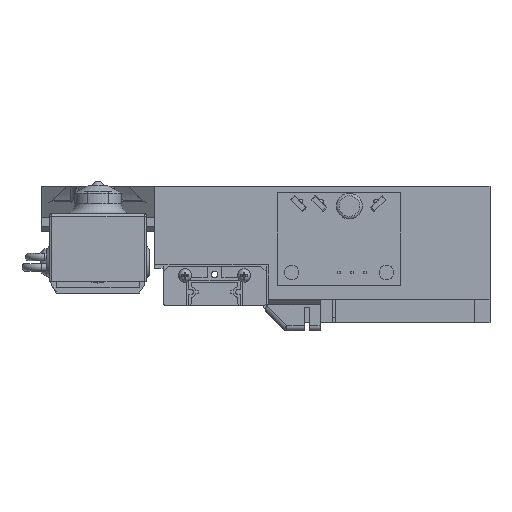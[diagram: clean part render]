
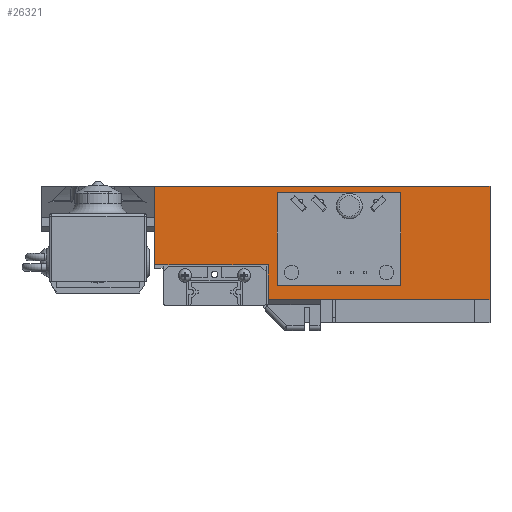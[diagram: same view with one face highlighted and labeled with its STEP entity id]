
A CAD part, left-side view. The second image highlights one B-rep face of the part: STEP entity #26321.
In plain terms, the highlighted planar face has unit normal (-1, 0, 0).
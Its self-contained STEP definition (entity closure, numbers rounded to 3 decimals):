
#1154=B_SPLINE_CURVE_WITH_KNOTS('',3,(#113916,#113917,#113918,#113919,#113920,
#113921,#113922),.UNSPECIFIED.,.F.,.F.,(4,3,4),(0.667,0.674,
0.679),.UNSPECIFIED.);
#1442=FACE_BOUND('',#5042,.T.);
#1443=FACE_BOUND('',#5043,.T.);
#1444=FACE_BOUND('',#5044,.T.);
#2091=PLANE('',#28885);
#3488=FACE_OUTER_BOUND('',#5041,.T.);
#5041=EDGE_LOOP('',(#24023,#24024,#24025,#24026,#24027,#24028,#24029,#24030,
#24031));
#5042=EDGE_LOOP('',(#24032,#24033,#24034,#24035));
#5043=EDGE_LOOP('',(#24036));
#5044=EDGE_LOOP('',(#24037));
#6685=LINE('',#110885,#8800);
#6820=LINE('',#113217,#8935);
#6891=LINE('',#113439,#9006);
#6897=LINE('',#113452,#9012);
#6904=LINE('',#113468,#9019);
#6908=LINE('',#113479,#9023);
#6977=LINE('',#113647,#9092);
#7057=LINE('',#113860,#9172);
#7064=LINE('',#113895,#9179);
#7066=LINE('',#113899,#9181);
#7069=LINE('',#113926,#9184);
#7071=LINE('',#113929,#9186);
#8800=VECTOR('',#34368,10.);
#8935=VECTOR('',#34671,10.);
#9006=VECTOR('',#34876,10.);
#9012=VECTOR('',#34884,10.);
#9019=VECTOR('',#34893,10.);
#9023=VECTOR('',#34899,10.);
#9092=VECTOR('',#35046,10.);
#9172=VECTOR('',#35254,10.);
#9179=VECTOR('',#35271,10.);
#9181=VECTOR('',#35275,10.);
#9184=VECTOR('',#35280,10.);
#9186=VECTOR('',#35284,10.);
#10201=CIRCLE('',#28786,2.15);
#10203=CIRCLE('',#28789,2.15);
#12314=VERTEX_POINT('',#110882);
#12315=VERTEX_POINT('',#110884);
#12491=VERTEX_POINT('',#113214);
#12492=VERTEX_POINT('',#113216);
#12555=VERTEX_POINT('',#113436);
#12556=VERTEX_POINT('',#113438);
#12561=VERTEX_POINT('',#113449);
#12562=VERTEX_POINT('',#113451);
#12579=VERTEX_POINT('',#113511);
#12581=VERTEX_POINT('',#113517);
#12681=VERTEX_POINT('',#113858);
#12685=VERTEX_POINT('',#113894);
#12686=VERTEX_POINT('',#113898);
#12687=VERTEX_POINT('',#113915);
#12688=VERTEX_POINT('',#113925);
#15913=EDGE_CURVE('',#12315,#12314,#6685,.T.);
#16176=EDGE_CURVE('',#12492,#12491,#6820,.T.);
#16277=EDGE_CURVE('',#12556,#12555,#6891,.T.);
#16283=EDGE_CURVE('',#12562,#12561,#6897,.T.);
#16291=EDGE_CURVE('',#12555,#12562,#6904,.T.);
#16296=EDGE_CURVE('',#12561,#12556,#6908,.T.);
#16313=EDGE_CURVE('',#12579,#12579,#10201,.T.);
#16316=EDGE_CURVE('',#12581,#12581,#10203,.T.);
#16382=EDGE_CURVE('',#12315,#12491,#6977,.T.);
#16478=EDGE_CURVE('',#12681,#12314,#7057,.T.);
#16486=EDGE_CURVE('',#12681,#12685,#7064,.T.);
#16488=EDGE_CURVE('',#12685,#12686,#7066,.T.);
#16490=EDGE_CURVE('',#12687,#12686,#1154,.T.);
#16492=EDGE_CURVE('',#12687,#12688,#7069,.T.);
#16494=EDGE_CURVE('',#12688,#12492,#7071,.T.);
#24023=ORIENTED_EDGE('',*,*,#15913,.T.);
#24024=ORIENTED_EDGE('',*,*,#16478,.F.);
#24025=ORIENTED_EDGE('',*,*,#16486,.T.);
#24026=ORIENTED_EDGE('',*,*,#16488,.T.);
#24027=ORIENTED_EDGE('',*,*,#16490,.F.);
#24028=ORIENTED_EDGE('',*,*,#16492,.T.);
#24029=ORIENTED_EDGE('',*,*,#16494,.T.);
#24030=ORIENTED_EDGE('',*,*,#16176,.T.);
#24031=ORIENTED_EDGE('',*,*,#16382,.F.);
#24032=ORIENTED_EDGE('',*,*,#16283,.T.);
#24033=ORIENTED_EDGE('',*,*,#16296,.T.);
#24034=ORIENTED_EDGE('',*,*,#16277,.T.);
#24035=ORIENTED_EDGE('',*,*,#16291,.T.);
#24036=ORIENTED_EDGE('',*,*,#16313,.T.);
#24037=ORIENTED_EDGE('',*,*,#16316,.T.);
#26321=ADVANCED_FACE('',(#3488,#1442,#1443,#1444),#2091,.F.);
#28786=AXIS2_PLACEMENT_3D('',#113512,#34935,#34936);
#28789=AXIS2_PLACEMENT_3D('',#113518,#34942,#34943);
#28885=AXIS2_PLACEMENT_3D('',#113930,#35285,#35286);
#34368=DIRECTION('',(0.,1.,0.));
#34671=DIRECTION('',(0.,-1.,0.));
#34876=DIRECTION('',(0.,0.,1.));
#34884=DIRECTION('',(0.,0.,-1.));
#34893=DIRECTION('',(0.,-1.,0.));
#34899=DIRECTION('',(0.,1.,0.));
#34935=DIRECTION('center_axis',(1.,0.,0.));
#34936=DIRECTION('ref_axis',(0.,-1.,0.));
#34942=DIRECTION('center_axis',(1.,0.,0.));
#34943=DIRECTION('ref_axis',(0.,-1.,0.));
#35046=DIRECTION('',(0.,0.,-1.));
#35254=DIRECTION('',(0.,0.,1.));
#35271=DIRECTION('',(0.,-1.,0.));
#35275=DIRECTION('',(0.,0.,1.));
#35280=DIRECTION('',(0.,-1.,0.));
#35284=DIRECTION('',(0.,0.,-1.));
#35285=DIRECTION('center_axis',(1.,0.,0.));
#35286=DIRECTION('ref_axis',(0.,1.,0.));
#110882=CARTESIAN_POINT('',(-16.,11.601,19.255));
#110884=CARTESIAN_POINT('',(-16.,-53.5,19.255));
#110885=CARTESIAN_POINT('',(-16.,-56.239,19.255));
#113214=CARTESIAN_POINT('',(-16.,-53.5,-2.745));
#113216=CARTESIAN_POINT('',(-16.,-10.399,-2.745));
#113217=CARTESIAN_POINT('',(-16.,-20.5,-2.745));
#113436=CARTESIAN_POINT('',(-16.,-22.732,4.265));
#113438=CARTESIAN_POINT('',(-16.,-22.732,0.765));
#113439=CARTESIAN_POINT('',(-16.,-22.732,4.51));
#113449=CARTESIAN_POINT('',(-16.,-30.732,0.765));
#113451=CARTESIAN_POINT('',(-16.,-30.732,4.265));
#113452=CARTESIAN_POINT('',(-16.,-30.732,6.26));
#113468=CARTESIAN_POINT('',(-16.,-13.591,4.265));
#113479=CARTESIAN_POINT('',(-16.,-17.591,0.765));
#113511=CARTESIAN_POINT('',(-16.,-31.237,2.5));
#113512=CARTESIAN_POINT('Origin',(-16.,-33.387,2.5));
#113517=CARTESIAN_POINT('',(-16.,-12.837,2.5));
#113518=CARTESIAN_POINT('Origin',(-16.,-14.987,2.5));
#113647=CARTESIAN_POINT('',(-16.,-53.5,19.255));
#113858=CARTESIAN_POINT('',(-16.,11.601,4.));
#113860=CARTESIAN_POINT('',(-16.,11.601,3.657));
#113894=CARTESIAN_POINT('',(-16.,0.,4.));
#113895=CARTESIAN_POINT('',(-16.,11.601,4.));
#113898=CARTESIAN_POINT('',(-16.,0.,4.047));
#113899=CARTESIAN_POINT('',(-16.,0.,0.));
#113915=CARTESIAN_POINT('',(-16.,-0.467,4.));
#113916=CARTESIAN_POINT('Ctrl Pts',(-16.,-0.467,4.));
#113917=CARTESIAN_POINT('Ctrl Pts',(-16.,-0.368,4.01));
#113918=CARTESIAN_POINT('Ctrl Pts',(-16.,-0.269,4.02));
#113919=CARTESIAN_POINT('Ctrl Pts',(-16.,-0.171,4.03));
#113920=CARTESIAN_POINT('Ctrl Pts',(-16.,-0.114,4.036));
#113921=CARTESIAN_POINT('Ctrl Pts',(-16.,-0.057,4.041));
#113922=CARTESIAN_POINT('Ctrl Pts',(-16.,0.,4.047));
#113925=CARTESIAN_POINT('',(-16.,-10.399,4.));
#113926=CARTESIAN_POINT('',(-16.,11.601,4.));
#113929=CARTESIAN_POINT('',(-16.,-10.399,4.));
#113930=CARTESIAN_POINT('Origin',(-16.,-4.45,8.255));
